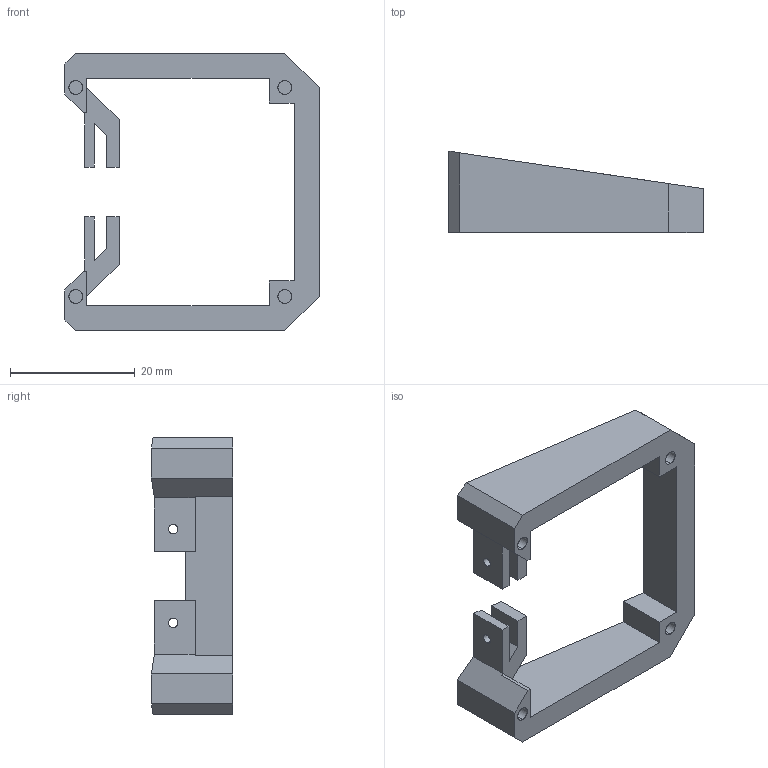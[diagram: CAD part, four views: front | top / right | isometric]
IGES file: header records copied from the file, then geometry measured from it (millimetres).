
Start section: SolidWorks IGES file using analytic representation for surfaces
Global section: file name: C:\Users\Jonathan\Dropbox\BR-Engineering\Models\CAMTILT-X4\PUBLIC-FILES-R2\ANALOG-MOUNT-R2\CAMTILT-ANALOG-MOUNT-R2.IGS; native system: SolidWorks 2014; preprocessor: SolidWorks 2014; author: Jonathan; date: 160907.125602; units: millimetre
Bounding box: 40.75 x 13 x 44.5 mm (x, y, z)
Surface area: 4258.1 mm2 (no closed solid volume)
Topology: 0 solids, 0 shells, 62 faces, 752 edges, 752 vertices
Faces by surface type: bspline 46, revolution 16
